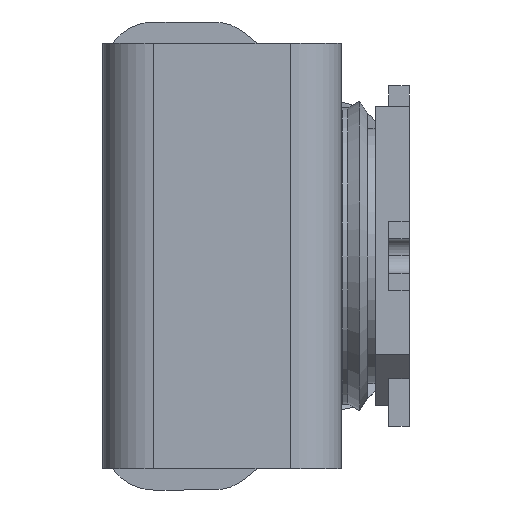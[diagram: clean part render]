
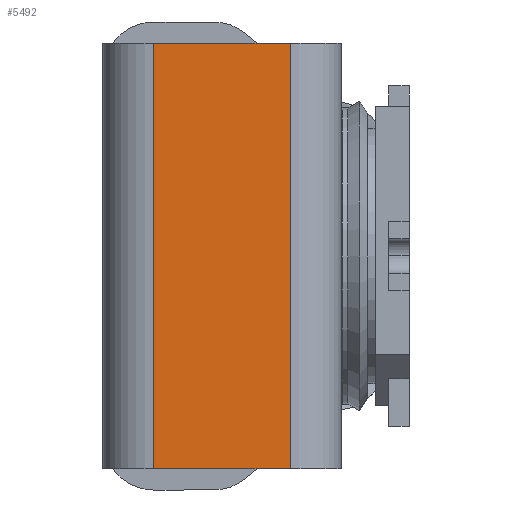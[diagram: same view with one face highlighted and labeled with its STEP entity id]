
A CAD part, left-side view. The second image highlights one B-rep face of the part: STEP entity #5492.
In plain terms, the highlighted planar face has unit normal (-1, 0, 0).
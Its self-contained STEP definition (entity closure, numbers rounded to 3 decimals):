
#362 = VERTEX_POINT ( 'NONE', #8705 ) ;
#934 = VECTOR ( 'NONE', #3854, 1000. ) ;
#1757 = CARTESIAN_POINT ( 'NONE',  ( -2.12, 0.7, -1.375 ) ) ;
#1898 = VECTOR ( 'NONE', #10176, 1000. ) ;
#2035 = EDGE_LOOP ( 'NONE', ( #11031, #9357, #7272, #7647 ) ) ;
#2126 = DIRECTION ( 'NONE',  ( -1., 0., 0. ) ) ;
#2552 = CARTESIAN_POINT ( 'NONE',  ( -2.12, 1.5, -1.25 ) ) ;
#2602 = LINE ( 'NONE', #1757, #8294 ) ;
#2668 = VECTOR ( 'NONE', #3516, 1000. ) ;
#2755 = LINE ( 'NONE', #2818, #1898 ) ;
#2818 = CARTESIAN_POINT ( 'NONE',  ( -2.12, 0.4, -1.25 ) ) ;
#3307 = VERTEX_POINT ( 'NONE', #8221 ) ;
#3440 = CARTESIAN_POINT ( 'NONE',  ( -2.12, 0.7, 1.25 ) ) ;
#3516 = DIRECTION ( 'NONE',  ( 0., 0., 1. ) ) ;
#3854 = DIRECTION ( 'NONE',  ( 0., 1., 0. ) ) ;
#4796 = FACE_OUTER_BOUND ( 'NONE', #2035, .T. ) ;
#5274 = DIRECTION ( 'NONE',  ( 0., 0., 1. ) ) ;
#5371 = VERTEX_POINT ( 'NONE', #2552 ) ;
#5492 = ADVANCED_FACE ( 'NONE', ( #4796 ), #5714, .T. ) ;
#5714 = PLANE ( 'NONE',  #6505 ) ;
#5871 = EDGE_CURVE ( 'NONE', #3307, #10534, #2602, .T. ) ;
#6505 = AXIS2_PLACEMENT_3D ( 'NONE', #10270, #2126, #10329 ) ;
#7272 = ORIENTED_EDGE ( 'NONE', *, *, #9550, .T. ) ;
#7647 = ORIENTED_EDGE ( 'NONE', *, *, #11328, .F. ) ;
#8221 = CARTESIAN_POINT ( 'NONE',  ( -2.12, 0.7, -1.25 ) ) ;
#8294 = VECTOR ( 'NONE', #5274, 1000. ) ;
#8705 = CARTESIAN_POINT ( 'NONE',  ( -2.12, 1.5, 1.25 ) ) ;
#9357 = ORIENTED_EDGE ( 'NONE', *, *, #5871, .T. ) ;
#9550 = EDGE_CURVE ( 'NONE', #10534, #362, #10122, .T. ) ;
#10035 = LINE ( 'NONE', #11663, #2668 ) ;
#10122 = LINE ( 'NONE', #11263, #934 ) ;
#10176 = DIRECTION ( 'NONE',  ( 0., 1., 0. ) ) ;
#10270 = CARTESIAN_POINT ( 'NONE',  ( -2.12, 0.7, -1.375 ) ) ;
#10329 = DIRECTION ( 'NONE',  ( 0., 0., 1. ) ) ;
#10534 = VERTEX_POINT ( 'NONE', #3440 ) ;
#11031 = ORIENTED_EDGE ( 'NONE', *, *, #11108, .F. ) ;
#11108 = EDGE_CURVE ( 'NONE', #3307, #5371, #2755, .T. ) ;
#11263 = CARTESIAN_POINT ( 'NONE',  ( -2.12, 0.4, 1.25 ) ) ;
#11328 = EDGE_CURVE ( 'NONE', #5371, #362, #10035, .T. ) ;
#11663 = CARTESIAN_POINT ( 'NONE',  ( -2.12, 1.5, -1.375 ) ) ;
